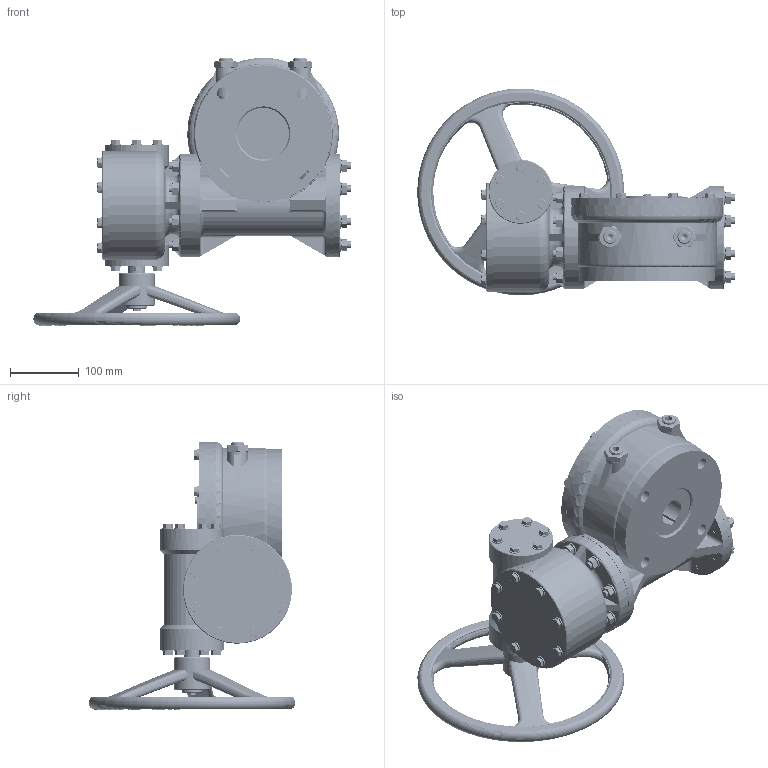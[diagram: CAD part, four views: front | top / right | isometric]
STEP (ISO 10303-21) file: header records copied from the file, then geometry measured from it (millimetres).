
FILE_DESCRIPTION (( 'STEP AP203' ), '1' );
FILE_NAME ('3DE-30-250-忒雄芛.STEP', '2026-02-06T01:48:56', ( '' ), ( '' ), 'SwSTEP 2.0', 'SolidWorks 2018', '' );
FILE_SCHEMA (( 'CONFIG_CONTROL_DESIGN' ));
Length unit declared in the file: millimetre
Products named in the file (34): 3D-30-250-湮眊极恦裝; 3D-30-250-04-湮眊极ヶ傷裔; 3D-30-250-01-湮眊极; 3D-30-250-02-湮眊极傷裔; 1倰鞠褒蹟譫 10; 3D-30-250-19-湮眊极綴傷裔菜; tapered roller bearings gb_Rolling bearings 30205 GB 297-94; 脹酗邧芛蹟翐M10x35; tapered roller bearings gb_Rolling bearings 32007 GB 297-94; 3D-30-250-15-硌尨齪; 3D-30-250-14-菜; hex thin nuts-grades ab-chamfered gb_GB_FASTENER_NUT_STNAB  B M20-N; 3D-30-250-12-苤眊极綴傷裔; 3DE-30-250-忒雄芛; 3D-30-250-17-苤眊极ヶ傷裔菜; 3D-30-250-03-湮眊极綴傷裔; 鞠褒芛蹟邡 M8X25; hexagon head bolts--product grade c gb_GB_FASTENER_BOLT_HHBC M8X40-N; plain washers-n series-grade a gb_GB_FASTENER_WASHER_PWNA 8; す菜え 8; 3D-30-250-11-苤眊极ヶ傷裔; す菜え 10; 3D-30-250-苤眊极恦謫; 3D-30-250-08-苤眊极傷裔; 3D-30-250-湮眊极恦謫; 3D-30-250-18-湮眊极傷裔菜; hexagon head bolts--product grade c gb_GB_FASTENER_BOLT_HHBC M6X30-N; 3D-30-250-20-苤眊极傷裔菜; 脹酗邧芛蹟翐M10x45; 3D-30-250-苤眊极恦裝; 3D-30-250-07-苤眊极; 3D-30-250-忒謫; 内六角平端紧定螺钉M20x115; slotted pan head screws gb_GB_FASTENER_SCREWS_NCHB M5X12-12-N
Assembly tree (134 placements, depth 2):
  3DE-30-250-忒雄芛
    3D-30-250-01-湮眊极
    3D-30-250-02-湮眊极傷裔
    3D-30-250-18-湮眊极傷裔菜
    3D-30-250-15-硌尨齪
    3D-30-250-03-湮眊极綴傷裔
    3D-30-250-19-湮眊极綴傷裔菜
    3D-30-250-07-苤眊极
    3D-30-250-04-湮眊极ヶ傷裔
    3D-30-250-湮眊极恦裝
    3D-30-250-湮眊极恦謫
    3D-30-250-苤眊极恦謫
    3D-30-250-08-苤眊极傷裔
    3D-30-250-20-苤眊极傷裔菜
    3D-30-250-12-苤眊极綴傷裔
    3D-30-250-11-苤眊极ヶ傷裔
    3D-30-250-苤眊极恦裝
    3D-30-250-17-苤眊极ヶ傷裔菜
    3D-30-250-忒謫
    内六角平端紧定螺钉M20x115  x2
    hex thin nuts-grades ab-chamfered gb_GB_FASTENER_NUT_STNAB  B M20-N  x2
    鞠褒芛蹟邡 M8X25  x20
    す菜え 8  x20
    hexagon head bolts--product grade c gb_GB_FASTENER_BOLT_HHBC M8X40-N  x8
    plain washers-n series-grade a gb_GB_FASTENER_WASHER_PWNA 8  x8
    脹酗邧芛蹟翐M10x45  x8
    す菜え 10  x16
    1倰鞠褒蹟譫 10  x16
    脹酗邧芛蹟翐M10x35  x8
    3D-30-250-14-菜
    hexagon head bolts--product grade c gb_GB_FASTENER_BOLT_HHBC M6X30-N
    slotted pan head screws gb_GB_FASTENER_SCREWS_NCHB M5X12-12-N  x2
    tapered roller bearings gb_Rolling bearings 32007 GB 297-94  x2
    tapered roller bearings gb_Rolling bearings 30205 GB 297-94  x2
Bounding box: 460.24 x 299.57 x 389.5 mm (x, y, z)
Volume: 6343993.9 mm3; surface area: 1415493.5 mm2
Topology: 134 solids, 134 shells, 3745 faces, 10659 edges, 6936 vertices
Faces by surface type: plane 1147, cylinder 1032, cone 757, torus 516, bspline 285, sphere 8
Entity records: 236183 total; most frequent: CARTESIAN_POINT 172265, ORIENTED_EDGE 13234, DIRECTION 10814, EDGE_CURVE 6617, AXIS2_PLACEMENT_3D 4563, VERTEX_POINT 4325, EDGE_LOOP 2724, CIRCLE 2430
